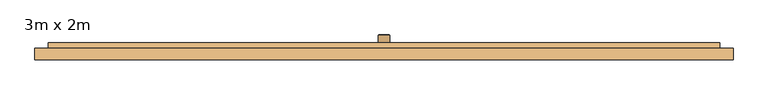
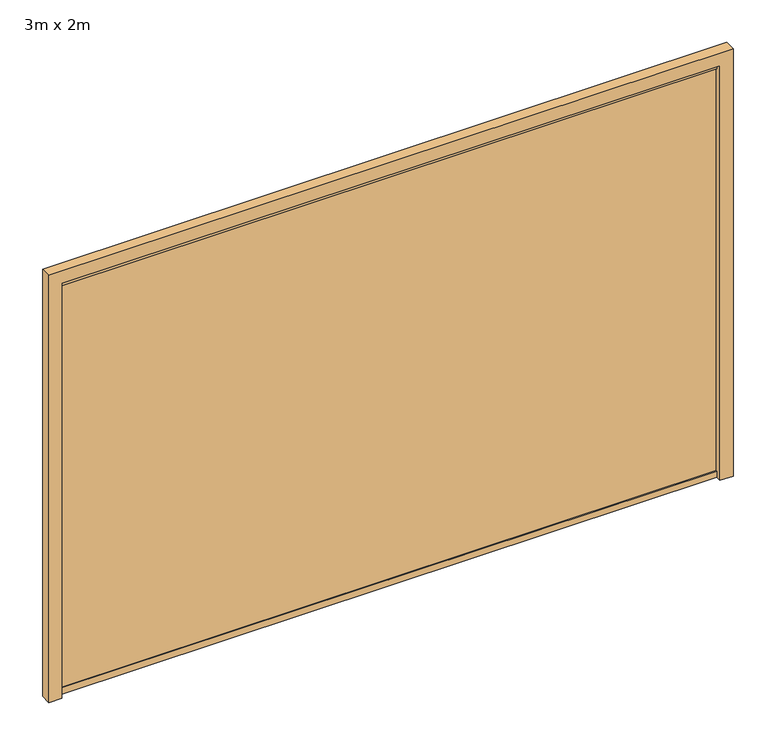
"""IFC4 building model written with IfcOpenShell, lengths in millimetres: door geometry, Garage basculante : 3m x 2m."""

from ifc_helpers import new_model, si_unit, frame, origin, place, context, project, spatial, polyline, circle_curve, outline, extrude, faceted_brep, source, transform, mapped, element, save
from ifc_brep_helpers import plane_surface, cylinder_surface, revolved_surface, advanced_brep


def door_3m_x_2m_7397f7c9(model_context):
    return source(origin(), model_context, "Body", "SolidModel", [
        advanced_brep(
        [(-37.902088, -383.5523258, 500.0), (7.902088, -383.5523258, 500.0), (10.0, -385.6502378, 500.0), (-40.0, -385.6502378, 500.0), (-15.0, -383.5523258, 500.0), (-40.0, -423.5523258, 500.0), (10.0, -423.5523258, 500.0), (-15.0, -423.5523258, 500.0)],
        [
            (0, 1, circle_curve(frame((-15.0, -383.5523258, 500.0), z_axis=(0.0, -1.0, 0.0), x_axis=(1.0, 0.0, 0.0)), 22.902088)),
            (1, 2),
            (2, 3, circle_curve(frame((-15.0, -385.6502378, 500.0), z_axis=(0.0, 1.0, 0.0), x_axis=(1.0, 0.0, 0.0)), 25.0)),
            (3, 0),
            (1, 0, circle_curve(frame((-15.0, -383.5523258, 500.0), z_axis=(0.0, -1.0, 0.0), x_axis=(1.0, 0.0, 0.0)), 22.902088)),
            (3, 2, circle_curve(frame((-15.0, -385.6502378, 500.0), z_axis=(0.0, 1.0, 0.0), x_axis=(1.0, 0.0, 0.0)), 25.0)),
            (4, 1),
            (0, 4),
            (5, 6, circle_curve(frame((-15.0, -423.5523258, 500.0), z_axis=(0.0, -1.0, 0.0), x_axis=(1.0, 0.0, 0.0)), 25.0)),
            (6, 7),
            (7, 5),
            (6, 5, circle_curve(frame((-15.0, -423.5523258, 500.0), z_axis=(0.0, -1.0, 0.0), x_axis=(1.0, 0.0, 0.0)), 25.0)),
            (2, 6),
            (5, 3),
        ],
        [
            revolved_surface(polyline([(10.0, -385.6502378, 500.0), (7.902088, -383.5523258, 500.0)]), (-15.0, 971.1651436, 500.0), (0.0, 1.0, 0.0)),
            plane_surface(frame((-15.0, -383.5523258, 500.0), z_axis=(0.0, 1.0, 0.0), x_axis=(1.0, 0.0, 0.0))),
            plane_surface(frame((-15.0, -423.5523258, 500.0), z_axis=(0.0, -1.0, 0.0), x_axis=(1.0, 0.0, 0.0))),
            cylinder_surface(frame((-15.0, 971.1651436, 500.0), z_axis=(0.0, 1.0, 0.0), x_axis=(1.0, 0.0, 0.0)), 25.0),
        ],
        [
            (0, [[1, 2, 3, 4]]),
            (0, [[5, -4, 6, -2]]),
            (1, [[7, -1, 8]]),
            (1, [[-8, -5, -7]]),
            (2, [[9, 10, 11]]),
            (2, [[12, -11, -10]]),
            (3, [[-3, 13, -9, 14]]),
            (3, [[-6, -14, -12, -13]]),
        ],
    ),
        faceted_brep([(-1515.0, -468.5523258, 2000.0), (1485.0, -468.5523258, 2000.0), (1485.0, -418.5523258, 2000.0), (-1515.0, -418.5523258, 2000.0), (1485.0, -468.5523258, 0.0), (-1515.0, -468.5523258, 0.0), (-1515.0, -418.5523258, 0.0), (1485.0, -418.5523258, 0.0), (1398.2258065, -433.5523258, 1970.0), (1398.2258065, -433.5523258, 30.0), (1378.2258065, -433.5523258, 30.0), (1378.2258065, -433.5523258, 1970.0), (1378.2258065, -423.5523258, 30.0), (1378.2258065, -423.5523258, 1970.0), (1301.4516129, -423.5523258, 30.0), (1301.4516129, -423.5523258, 1970.0), (1301.4516129, -433.5523258, 30.0), (1301.4516129, -433.5523258, 1970.0), (1281.4516129, -433.5523258, 30.0), (1281.4516129, -433.5523258, 1970.0), (1281.4516129, -423.5523258, 30.0), (1281.4516129, -423.5523258, 1970.0), (1204.6774194, -423.5523258, 30.0), (1204.6774194, -423.5523258, 1970.0), (1204.6774194, -433.5523258, 30.0), (1204.6774194, -433.5523258, 1970.0), (1184.6774194, -433.5523258, 30.0), (1184.6774194, -433.5523258, 1970.0), (1184.6774194, -423.5523258, 30.0), (1184.6774194, -423.5523258, 1970.0), (1107.9032258, -423.5523258, 30.0), (1107.9032258, -423.5523258, 1970.0), (1107.9032258, -433.5523258, 30.0), (1107.9032258, -433.5523258, 1970.0), (1087.9032258, -433.5523258, 30.0), (1087.9032258, -433.5523258, 1970.0), (1087.9032258, -423.5523258, 30.0), (1087.9032258, -423.5523258, 1970.0), (1011.1290323, -423.5523258, 30.0), (1011.1290323, -423.5523258, 1970.0), (1011.1290323, -433.5523258, 30.0), (1011.1290323, -433.5523258, 1970.0), (991.1290323, -433.5523258, 30.0), (991.1290323, -433.5523258, 1970.0), (991.1290323, -423.5523258, 30.0), (991.1290323, -423.5523258, 1970.0), (914.3548387, -423.5523258, 30.0), (914.3548387, -423.5523258, 1970.0), (914.3548387, -433.5523258, 30.0), (914.3548387, -433.5523258, 1970.0), (894.3548387, -433.5523258, 30.0), (894.3548387, -433.5523258, 1970.0), (894.3548387, -423.5523258, 30.0), (894.3548387, -423.5523258, 1970.0), (817.5806452, -423.5523258, 30.0), (817.5806452, -423.5523258, 1970.0), (817.5806452, -433.5523258, 30.0), (817.5806452, -433.5523258, 1970.0), (797.5806452, -433.5523258, 30.0), (797.5806452, -433.5523258, 1970.0), (797.5806452, -423.5523258, 30.0), (797.5806452, -423.5523258, 1970.0), (720.8064516, -423.5523258, 30.0), (720.8064516, -423.5523258, 1970.0), (720.8064516, -433.5523258, 30.0), (720.8064516, -433.5523258, 1970.0), (700.8064516, -433.5523258, 30.0), (700.8064516, -433.5523258, 1970.0), (700.8064516, -423.5523258, 30.0), (700.8064516, -423.5523258, 1970.0), (624.0322581, -423.5523258, 30.0), (624.0322581, -423.5523258, 1970.0), (624.0322581, -433.5523258, 30.0), (624.0322581, -433.5523258, 1970.0), (604.0322581, -433.5523258, 30.0), (604.0322581, -433.5523258, 1970.0), (604.0322581, -423.5523258, 30.0), (604.0322581, -423.5523258, 1970.0), (527.2580645, -423.5523258, 30.0), (527.2580645, -423.5523258, 1970.0), (527.2580645, -433.5523258, 30.0), (527.2580645, -433.5523258, 1970.0), (507.2580645, -433.5523258, 30.0), (507.2580645, -433.5523258, 1970.0), (507.2580645, -423.5523258, 30.0), (507.2580645, -423.5523258, 1970.0), (430.483871, -423.5523258, 30.0), (430.483871, -423.5523258, 1970.0), (430.483871, -433.5523258, 30.0), (430.483871, -433.5523258, 1970.0), (410.483871, -433.5523258, 30.0), (410.483871, -433.5523258, 1970.0), (410.483871, -423.5523258, 30.0), (410.483871, -423.5523258, 1970.0), (333.7096774, -423.5523258, 30.0), (333.7096774, -423.5523258, 1970.0), (333.7096774, -433.5523258, 30.0), (333.7096774, -433.5523258, 1970.0), (313.7096774, -433.5523258, 30.0), (313.7096774, -433.5523258, 1970.0), (313.7096774, -423.5523258, 30.0), (313.7096774, -423.5523258, 1970.0), (236.9354839, -423.5523258, 30.0), (236.9354839, -423.5523258, 1970.0), (236.9354839, -433.5523258, 30.0), (236.9354839, -433.5523258, 1970.0), (216.9354839, -433.5523258, 30.0), (216.9354839, -433.5523258, 1970.0), (216.9354839, -423.5523258, 30.0), (216.9354839, -423.5523258, 1970.0), (140.1612903, -423.5523258, 30.0), (140.1612903, -423.5523258, 1970.0), (140.1612903, -433.5523258, 30.0), (140.1612903, -433.5523258, 1970.0), (120.1612903, -433.5523258, 30.0), (120.1612903, -433.5523258, 1970.0), (120.1612903, -423.5523258, 30.0), (120.1612903, -423.5523258, 1970.0), (43.3870968, -423.5523258, 30.0), (43.3870968, -423.5523258, 1970.0), (43.3870968, -433.5523258, 30.0), (43.3870968, -433.5523258, 1970.0), (23.3870968, -433.5523258, 30.0), (23.3870968, -433.5523258, 1970.0), (23.3870968, -423.5523258, 30.0), (23.3870968, -423.5523258, 1970.0), (-53.3870968, -423.5523258, 30.0), (-53.3870968, -423.5523258, 1970.0), (-53.3870968, -433.5523258, 30.0), (-53.3870968, -433.5523258, 1970.0), (-73.3870968, -433.5523258, 30.0), (-73.3870968, -433.5523258, 1970.0), (-73.3870968, -423.5523258, 30.0), (-73.3870968, -423.5523258, 1970.0), (-150.1612903, -423.5523258, 30.0), (-150.1612903, -423.5523258, 1970.0), (-150.1612903, -433.5523258, 30.0), (-150.1612903, -433.5523258, 1970.0), (-170.1612903, -433.5523258, 30.0), (-170.1612903, -433.5523258, 1970.0), (-170.1612903, -423.5523258, 30.0), (-170.1612903, -423.5523258, 1970.0), (-246.9354839, -423.5523258, 30.0), (-246.9354839, -423.5523258, 1970.0), (-246.9354839, -433.5523258, 30.0), (-246.9354839, -433.5523258, 1970.0), (-266.9354839, -433.5523258, 30.0), (-266.9354839, -433.5523258, 1970.0), (-266.9354839, -423.5523258, 30.0), (-266.9354839, -423.5523258, 1970.0), (-343.7096774, -423.5523258, 30.0), (-343.7096774, -423.5523258, 1970.0), (-343.7096774, -433.5523258, 30.0), (-343.7096774, -433.5523258, 1970.0), (-363.7096774, -433.5523258, 30.0), (-363.7096774, -433.5523258, 1970.0), (-363.7096774, -423.5523258, 30.0), (-363.7096774, -423.5523258, 1970.0), (-440.483871, -423.5523258, 30.0), (-440.483871, -423.5523258, 1970.0), (-440.483871, -433.5523258, 30.0), (-440.483871, -433.5523258, 1970.0), (-460.483871, -433.5523258, 30.0), (-460.483871, -433.5523258, 1970.0), (-460.483871, -423.5523258, 30.0), (-460.483871, -423.5523258, 1970.0), (-537.2580645, -423.5523258, 30.0), (-537.2580645, -423.5523258, 1970.0), (-537.2580645, -433.5523258, 30.0), (-537.2580645, -433.5523258, 1970.0), (-557.2580645, -433.5523258, 30.0), (-557.2580645, -433.5523258, 1970.0), (-557.2580645, -423.5523258, 30.0), (-557.2580645, -423.5523258, 1970.0), (-634.0322581, -423.5523258, 30.0), (-634.0322581, -423.5523258, 1970.0), (-634.0322581, -433.5523258, 30.0), (-634.0322581, -433.5523258, 1970.0), (-654.0322581, -433.5523258, 30.0), (-654.0322581, -433.5523258, 1970.0), (-654.0322581, -423.5523258, 30.0), (-654.0322581, -423.5523258, 1970.0), (-730.8064516, -423.5523258, 30.0), (-730.8064516, -423.5523258, 1970.0), (-730.8064516, -433.5523258, 30.0), (-730.8064516, -433.5523258, 1970.0), (-750.8064516, -433.5523258, 30.0), (-750.8064516, -433.5523258, 1970.0), (-750.8064516, -423.5523258, 30.0), (-750.8064516, -423.5523258, 1970.0), (-827.5806452, -423.5523258, 30.0), (-827.5806452, -423.5523258, 1970.0), (-827.5806452, -433.5523258, 30.0), (-827.5806452, -433.5523258, 1970.0), (-847.5806452, -433.5523258, 30.0), (-847.5806452, -433.5523258, 1970.0), (-847.5806452, -423.5523258, 30.0), (-847.5806452, -423.5523258, 1970.0), (-924.3548387, -423.5523258, 30.0), (-924.3548387, -423.5523258, 1970.0), (-924.3548387, -433.5523258, 30.0), (-924.3548387, -433.5523258, 1970.0), (-944.3548387, -433.5523258, 30.0), (-944.3548387, -433.5523258, 1970.0), (-944.3548387, -423.5523258, 30.0), (-944.3548387, -423.5523258, 1970.0), (-1021.1290323, -423.5523258, 30.0), (-1021.1290323, -423.5523258, 1970.0), (-1021.1290323, -433.5523258, 30.0), (-1021.1290323, -433.5523258, 1970.0), (-1041.1290323, -433.5523258, 30.0), (-1041.1290323, -433.5523258, 1970.0), (-1041.1290323, -423.5523258, 30.0), (-1041.1290323, -423.5523258, 1970.0), (-1117.9032258, -423.5523258, 30.0), (-1117.9032258, -423.5523258, 1970.0), (-1117.9032258, -433.5523258, 30.0), (-1117.9032258, -433.5523258, 1970.0), (-1137.9032258, -433.5523258, 30.0), (-1137.9032258, -433.5523258, 1970.0), (-1137.9032258, -423.5523258, 30.0), (-1137.9032258, -423.5523258, 1970.0), (-1214.6774194, -423.5523258, 30.0), (-1214.6774194, -423.5523258, 1970.0), (-1214.6774194, -433.5523258, 30.0), (-1214.6774194, -433.5523258, 1970.0), (-1234.6774194, -433.5523258, 30.0), (-1234.6774194, -433.5523258, 1970.0), (-1234.6774194, -423.5523258, 30.0), (-1234.6774194, -423.5523258, 1970.0), (-1311.4516129, -423.5523258, 30.0), (-1311.4516129, -423.5523258, 1970.0), (-1311.4516129, -433.5523258, 30.0), (-1311.4516129, -433.5523258, 1970.0), (-1331.4516129, -433.5523258, 30.0), (-1331.4516129, -433.5523258, 1970.0), (-1331.4516129, -423.5523258, 30.0), (-1331.4516129, -423.5523258, 1970.0), (-1408.2258065, -423.5523258, 30.0), (-1408.2258065, -423.5523258, 1970.0), (-1408.2258065, -433.5523258, 30.0), (-1408.2258065, -433.5523258, 1970.0), (-1428.2258065, -433.5523258, 30.0), (-1428.2258065, -433.5523258, 1970.0), (-1428.2258065, -423.5523258, 30.0), (-1428.2258065, -423.5523258, 1970.0), (-1515.0, -423.5523258, 30.0), (-1515.0, -423.5523258, 1970.0), (-1515.0, -418.5523258, 1970.0), (-1515.0, -418.5523258, 30.0), (-1515.0, -468.5523258, 30.0), (-1515.0, -463.5523258, 30.0), (-1515.0, -463.5523258, 1970.0), (-1515.0, -468.5523258, 1970.0), (1485.0, -463.5523258, 30.0), (1485.0, -463.5523258, 1970.0), (1485.0, -468.5523258, 1970.0), (1485.0, -468.5523258, 30.0), (1485.0, -418.5523258, 30.0), (1485.0, -423.5523258, 30.0), (1485.0, -423.5523258, 1970.0), (1485.0, -418.5523258, 1970.0), (1398.2258065, -423.5523258, 30.0), (1398.2258065, -423.5523258, 1970.0)], [[[0, 1, 2, 3]], [[4, 5, 6, 7]], [[8, 9, 10, 11]], [[11, 10, 12, 13]], [[13, 12, 14, 15]], [[15, 14, 16, 17]], [[17, 16, 18, 19]], [[19, 18, 20, 21]], [[21, 20, 22, 23]], [[23, 22, 24, 25]], [[25, 24, 26, 27]], [[27, 26, 28, 29]], [[29, 28, 30, 31]], [[31, 30, 32, 33]], [[33, 32, 34, 35]], [[35, 34, 36, 37]], [[37, 36, 38, 39]], [[39, 38, 40, 41]], [[41, 40, 42, 43]], [[43, 42, 44, 45]], [[45, 44, 46, 47]], [[47, 46, 48, 49]], [[49, 48, 50, 51]], [[51, 50, 52, 53]], [[53, 52, 54, 55]], [[55, 54, 56, 57]], [[57, 56, 58, 59]], [[59, 58, 60, 61]], [[61, 60, 62, 63]], [[63, 62, 64, 65]], [[65, 64, 66, 67]], [[67, 66, 68, 69]], [[69, 68, 70, 71]], [[71, 70, 72, 73]], [[73, 72, 74, 75]], [[75, 74, 76, 77]], [[77, 76, 78, 79]], [[79, 78, 80, 81]], [[81, 80, 82, 83]], [[83, 82, 84, 85]], [[85, 84, 86, 87]], [[87, 86, 88, 89]], [[89, 88, 90, 91]], [[91, 90, 92, 93]], [[93, 92, 94, 95]], [[95, 94, 96, 97]], [[97, 96, 98, 99]], [[99, 98, 100, 101]], [[101, 100, 102, 103]], [[103, 102, 104, 105]], [[105, 104, 106, 107]], [[107, 106, 108, 109]], [[109, 108, 110, 111]], [[111, 110, 112, 113]], [[113, 112, 114, 115]], [[115, 114, 116, 117]], [[117, 116, 118, 119]], [[119, 118, 120, 121]], [[121, 120, 122, 123]], [[123, 122, 124, 125]], [[125, 124, 126, 127]], [[127, 126, 128, 129]], [[129, 128, 130, 131]], [[131, 130, 132, 133]], [[133, 132, 134, 135]], [[135, 134, 136, 137]], [[137, 136, 138, 139]], [[139, 138, 140, 141]], [[141, 140, 142, 143]], [[143, 142, 144, 145]], [[145, 144, 146, 147]], [[147, 146, 148, 149]], [[149, 148, 150, 151]], [[151, 150, 152, 153]], [[153, 152, 154, 155]], [[155, 154, 156, 157]], [[157, 156, 158, 159]], [[159, 158, 160, 161]], [[161, 160, 162, 163]], [[163, 162, 164, 165]], [[165, 164, 166, 167]], [[167, 166, 168, 169]], [[169, 168, 170, 171]], [[171, 170, 172, 173]], [[173, 172, 174, 175]], [[175, 174, 176, 177]], [[177, 176, 178, 179]], [[179, 178, 180, 181]], [[181, 180, 182, 183]], [[183, 182, 184, 185]], [[185, 184, 186, 187]], [[187, 186, 188, 189]], [[189, 188, 190, 191]], [[191, 190, 192, 193]], [[193, 192, 194, 195]], [[195, 194, 196, 197]], [[197, 196, 198, 199]], [[199, 198, 200, 201]], [[201, 200, 202, 203]], [[203, 202, 204, 205]], [[205, 204, 206, 207]], [[207, 206, 208, 209]], [[209, 208, 210, 211]], [[211, 210, 212, 213]], [[213, 212, 214, 215]], [[215, 214, 216, 217]], [[217, 216, 218, 219]], [[219, 218, 220, 221]], [[221, 220, 222, 223]], [[223, 222, 224, 225]], [[225, 224, 226, 227]], [[227, 226, 228, 229]], [[229, 228, 230, 231]], [[231, 230, 232, 233]], [[233, 232, 234, 235]], [[235, 234, 236, 237]], [[237, 236, 238, 239]], [[239, 238, 240, 241]], [[241, 240, 242, 243]], [[243, 242, 244, 245]], [[245, 244, 246, 247]], [[0, 3, 248, 247, 246, 249, 6, 5, 250, 251, 252, 253]], [[252, 251, 254, 255]], [[2, 1, 256, 255, 254, 257, 4, 7, 258, 259, 260, 261]], [[260, 259, 262, 263]], [[9, 8, 263, 262]], [[256, 253, 252, 255]], [[248, 261, 260, 263, 8, 11, 13, 15, 17, 19, 21, 23, 25, 27, 29, 31, 33, 35, 37, 39, 41, 43, 45, 47, 49, 51, 53, 55, 57, 59, 61, 63, 65, 67, 69, 71, 73, 75, 77, 79, 81, 83, 85, 87, 89, 91, 93, 95, 97, 99, 101, 103, 105, 107, 109, 111, 113, 115, 117, 119, 121, 123, 125, 127, 129, 131, 133, 135, 137, 139, 141, 143, 145, 147, 149, 151, 153, 155, 157, 159, 161, 163, 165, 167, 169, 171, 173, 175, 177, 179, 181, 183, 185, 187, 189, 191, 193, 195, 197, 199, 201, 203, 205, 207, 209, 211, 213, 215, 217, 219, 221, 223, 225, 227, 229, 231, 233, 235, 237, 239, 241, 243, 245, 247]], [[2, 261, 248, 3]], [[256, 1, 0, 253]], [[4, 257, 250, 5]], [[258, 7, 6, 249]], [[250, 257, 254, 251]], [[258, 249, 246, 244, 242, 240, 238, 236, 234, 232, 230, 228, 226, 224, 222, 220, 218, 216, 214, 212, 210, 208, 206, 204, 202, 200, 198, 196, 194, 192, 190, 188, 186, 184, 182, 180, 178, 176, 174, 172, 170, 168, 166, 164, 162, 160, 158, 156, 154, 152, 150, 148, 146, 144, 142, 140, 138, 136, 134, 132, 130, 128, 126, 124, 122, 120, 118, 116, 114, 112, 110, 108, 106, 104, 102, 100, 98, 96, 94, 92, 90, 88, 86, 84, 82, 80, 78, 76, 74, 72, 70, 68, 66, 64, 62, 60, 58, 56, 54, 52, 50, 48, 46, 44, 42, 40, 38, 36, 34, 32, 30, 28, 26, 24, 22, 20, 18, 16, 14, 12, 10, 9, 262, 259]]]),
        extrude(outline(polyline([(0.0, -1575.0), (0.0, -1515.0), (2000.0, -1515.0), (2000.0, 1485.0), (0.0, 1485.0), (0.0, 1545.0), (2060.0, 1545.0), (2060.0, -1575.0), (0.0, -1575.0)])), frame((0.0, -493.5523258, 0.0), z_axis=(0.0, 1.0, 0.0), x_axis=(0.0, 0.0, 1.0)), (0.0, 0.0, 1.0), 50.0),
    ])


if __name__ == "__main__":
    model = new_model("IFC4")
    model_context = context("Model", 3, world=origin())
    ifc_project = project(units=[si_unit("LENGTHUNIT", "METRE", prefix="MILLI")], contexts=[model_context])
    site = spatial("IfcSite", under=ifc_project)
    building = spatial("IfcBuilding", under=site)
    placement = place(None, origin())
    door_3m_x_2m_shape = door_3m_x_2m_7397f7c9(model_context)
    element("IfcDoor", 1, ObjectType="Garage basculante : 3m x 2m", at=placement, inside=building, context=model_context, shape_type="MappedRepresentation", body=[
        mapped(door_3m_x_2m_shape, transform((0.0, 0.0, 0.0), x_axis=(1.0, 0.0, 0.0), y_axis=(0.0, 1.0, 0.0), z_axis=(0.0, 0.0, 1.0))),
    ])
    save(model, "model.ifc")
